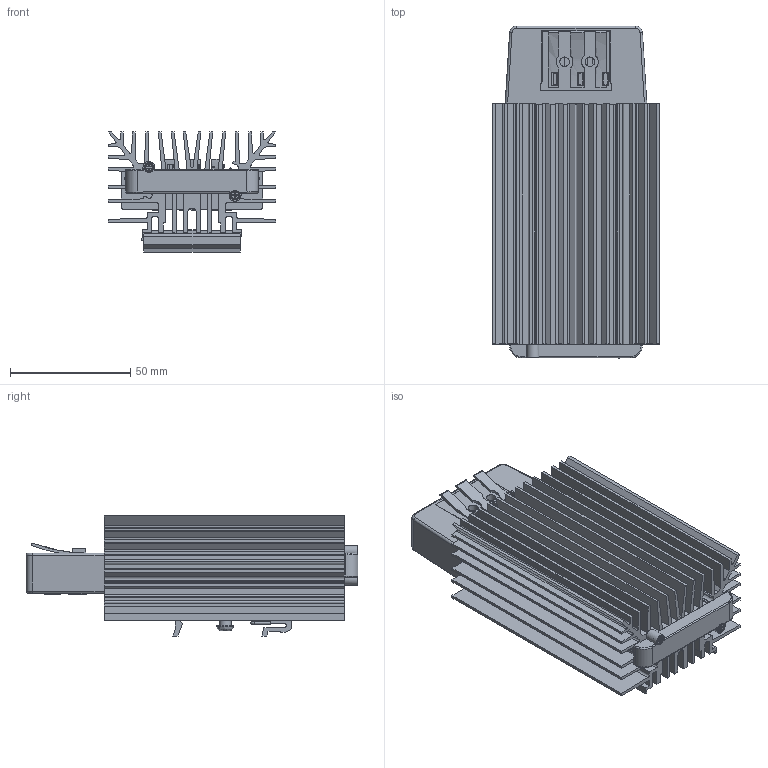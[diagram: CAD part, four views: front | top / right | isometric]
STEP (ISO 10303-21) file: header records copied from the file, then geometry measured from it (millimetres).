
FILE_DESCRIPTION(/* description */ (''),/* implementation_level */ '2;1');
FILE_NAME(/* name */ '3.stp',/* time_stamp */ '2026-03-26T09:29:32+08:00',/* author */ (''),/* organization */ (''),/* preprocessor_version */ 'ST-DEVELOPER v16.7',/* originating_system */ 'SIEMENS PLM Software NX 12.0',/* authorisation */ '');
FILE_SCHEMA (('AUTOMOTIVE_DESIGN { 1 0 10303 214 3 1 1 1 }'));
Length unit declared in the file: millimetre
Products named in the file (1): Admi4A847A397dx7
Bounding box: 69.7 x 138.3 x 50 mm (x, y, z)
Volume: 152423.4 mm3; surface area: 130941.4 mm2
Topology: 8 solids, 8 shells, 649 faces, 1758 edges, 1157 vertices
Faces by surface type: plane 445, cylinder 161, cone 13, extrusion 13, torus 12, bspline 5
Full cylindrical faces by diameter (mm): 1 x5, 1.115 x1, 2 x2, 3 x2, 3.8 x2, 4 x4, 5 x2, 7 x1
Entity records: 20665 total; most frequent: CARTESIAN_POINT 4195, ORIENTED_EDGE 3432, DIRECTION 3292, EDGE_CURVE 1716, VECTOR 1322, LINE 1309, VERTEX_POINT 1145, AXIS2_PLACEMENT_3D 985
